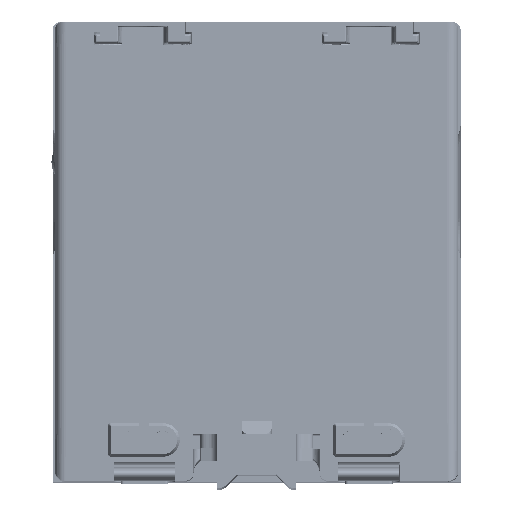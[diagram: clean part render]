
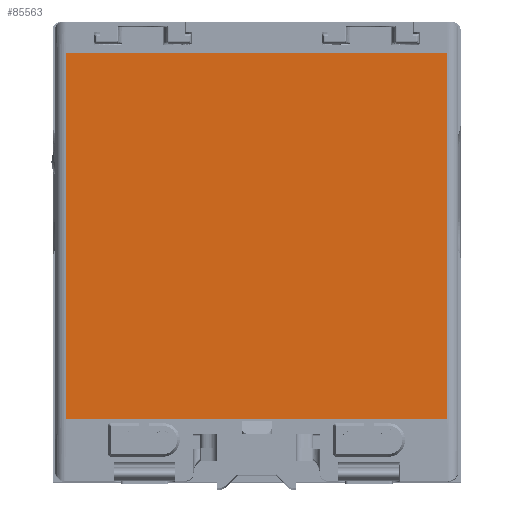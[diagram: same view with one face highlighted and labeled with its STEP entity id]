
A CAD part, top view. The second image highlights one B-rep face of the part: STEP entity #85563.
In plain terms, the highlighted planar face has unit normal (0, 0, 1) as drawn and (1, 0, 0) by its records, which use the part's own axes.
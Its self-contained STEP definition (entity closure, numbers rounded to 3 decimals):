
#3672 = CARTESIAN_POINT ( 'NONE',  ( 27.371, 71., -37. ) ) ;
#4199 = AXIS2_PLACEMENT_3D ( 'NONE', #3672, #108969, #62530 ) ;
#7894 = CARTESIAN_POINT ( 'NONE',  ( 27.371, 71., 37. ) ) ;
#8427 = EDGE_CURVE ( 'NONE', #93825, #48611, #78899, .T. ) ;
#10476 = VERTEX_POINT ( 'NONE', #7894 ) ;
#11870 = DIRECTION ( 'NONE',  ( 0., -1., 0. ) ) ;
#13955 = ORIENTED_EDGE ( 'NONE', *, *, #8427, .F. ) ;
#22665 = VECTOR ( 'NONE', #59518, 1000. ) ;
#24127 = LINE ( 'NONE', #48096, #67081 ) ;
#26533 = CARTESIAN_POINT ( 'NONE',  ( 27.371, 71., 37. ) ) ;
#37702 = EDGE_CURVE ( 'NONE', #69720, #48611, #48974, .T. ) ;
#38296 = ORIENTED_EDGE ( 'NONE', *, *, #132243, .F. ) ;
#38785 = CARTESIAN_POINT ( 'NONE',  ( 27.371, 71., -37. ) ) ;
#48096 = CARTESIAN_POINT ( 'NONE',  ( 27.371, 71., -37. ) ) ;
#48611 = VERTEX_POINT ( 'NONE', #120660 ) ;
#48974 = LINE ( 'NONE', #96219, #101482 ) ;
#59518 = DIRECTION ( 'NONE',  ( 0., -1., 0. ) ) ;
#62530 = DIRECTION ( 'NONE',  ( 0., 0., 1. ) ) ;
#67081 = VECTOR ( 'NONE', #71336, 1000. ) ;
#69720 = VERTEX_POINT ( 'NONE', #79244 ) ;
#70695 = LINE ( 'NONE', #26533, #147835 ) ;
#71336 = DIRECTION ( 'NONE',  ( 0., 0., -1. ) ) ;
#74105 = FACE_OUTER_BOUND ( 'NONE', #78616, .T. ) ;
#78616 = EDGE_LOOP ( 'NONE', ( #99870, #13955, #38296, #136054 ) ) ;
#78899 = LINE ( 'NONE', #118329, #22665 ) ;
#79244 = CARTESIAN_POINT ( 'NONE',  ( 27.371, 0., 37. ) ) ;
#85563 = ADVANCED_FACE ( 'NONE', ( #74105 ), #96606, .F. ) ;
#86252 = EDGE_CURVE ( 'NONE', #10476, #69720, #70695, .T. ) ;
#93825 = VERTEX_POINT ( 'NONE', #38785 ) ;
#96219 = CARTESIAN_POINT ( 'NONE',  ( 27.371, 0., -37. ) ) ;
#96606 = PLANE ( 'NONE',  #4199 ) ;
#99870 = ORIENTED_EDGE ( 'NONE', *, *, #37702, .T. ) ;
#101482 = VECTOR ( 'NONE', #128740, 1000. ) ;
#108969 = DIRECTION ( 'NONE',  ( -1., 0., 0. ) ) ;
#118329 = CARTESIAN_POINT ( 'NONE',  ( 27.371, 71., -37. ) ) ;
#120660 = CARTESIAN_POINT ( 'NONE',  ( 27.371, 0., -37. ) ) ;
#128740 = DIRECTION ( 'NONE',  ( 0., 0., -1. ) ) ;
#132243 = EDGE_CURVE ( 'NONE', #10476, #93825, #24127, .T. ) ;
#136054 = ORIENTED_EDGE ( 'NONE', *, *, #86252, .T. ) ;
#147835 = VECTOR ( 'NONE', #11870, 1000. ) ;
